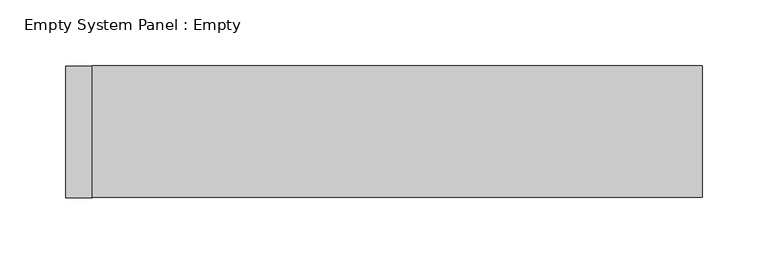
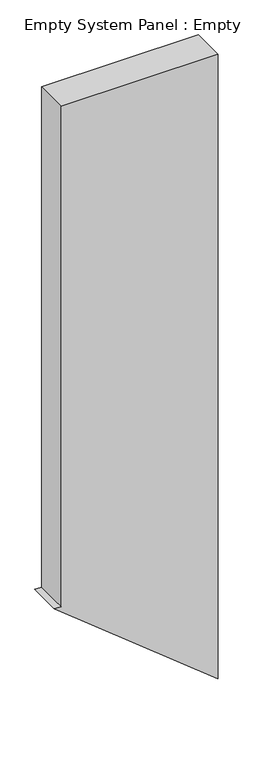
"""IFC4 building model written with IfcOpenShell, lengths in millimetres: plate geometry, Empty System Panel : Empty."""

from ifc_helpers import new_model, si_unit, frame, origin, place, context, project, spatial, polyline, outline, extrude, source, transform, mapped, element, save


def empty_system_panel_empty_133f927c(model_context):
    return source(origin(), model_context, "Body", "SweptSolid", [
        extrude(outline(polyline([(387.504061, -241.7391304), (0.0, 241.7391304), (1948.2965909, 241.7391304), (1948.2965909, -221.7391304), (387.504061, -221.7391304), (387.504061, -241.7391304)])), frame((0.0, -50.0, 0.0), z_axis=(0.0, 1.0, 0.0), x_axis=(0.0, 0.0, 1.0)), (0.0, 0.0, 1.0), 100.0),
    ])


if __name__ == "__main__":
    model = new_model("IFC4")
    model_context = context("Model", 3, world=origin())
    ifc_project = project(units=[si_unit("LENGTHUNIT", "METRE", prefix="MILLI")], contexts=[model_context])
    site = spatial("IfcSite", under=ifc_project)
    building = spatial("IfcBuilding", under=site)
    placement = place(None, origin())
    empty_system_panel_empty_shape = empty_system_panel_empty_133f927c(model_context)
    element("IfcPlate", 1, ObjectType="Empty System Panel : Empty", at=placement, inside=building, context=model_context, shape_type="MappedRepresentation", body=[
        mapped(empty_system_panel_empty_shape, transform((0.0, 0.0, 0.0), x_axis=(1.0, 0.0, 0.0), y_axis=(0.0, 1.0, 0.0), z_axis=(0.0, 0.0, 1.0))),
    ])
    save(model, "model.ifc")
